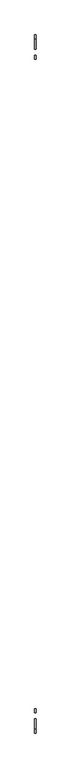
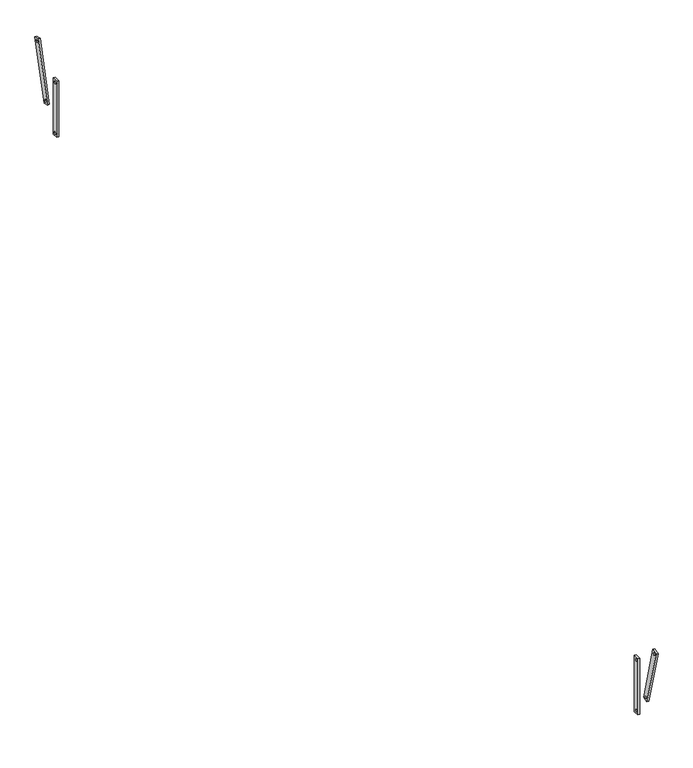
"""IFC4 building model written with IfcOpenShell, lengths in millimetres: proxy geometry, Modelos genéricos 288 : Modelos genéricos 278."""

from ifc_helpers import new_model, si_unit, point, frame, frame_2d, origin, place, context, project, spatial, polyline, circle_curve, trimmed, segment, composite_curve, outline, extrude, source, transform, mapped, element, save


def generic_models_0971f96f(model_context):
    return source(origin(), model_context, "Body", "SweptSolid", [
        extrude(outline(polyline([(5318.6238165, 2800.0), (5318.6238165, 3200.0), (5358.6238165, 3200.0), (5358.6238165, 2800.0), (5318.6238165, 2800.0)]), holes=[composite_curve([segment(trimmed(circle_curve(frame_2d((5338.6238165, 3180.0)), 7.5), [point((5346.1238165, 3180.0))], [point((5331.1238165, 3180.0))], True, "CARTESIAN"), True, "CONTINUOUS"), segment(trimmed(circle_curve(frame_2d((5338.6238165, 3180.0)), 7.5), [point((5331.1238165, 3180.0))], [point((5346.1238165, 3180.0))], True, "CARTESIAN"), True, "CONTINUOUS")], self_intersect=False), composite_curve([segment(trimmed(circle_curve(frame_2d((5338.6238165, 2820.0)), 7.5), [point((5346.1238165, 2820.0))], [point((5331.1238165, 2820.0))], True, "CARTESIAN"), True, "CONTINUOUS"), segment(trimmed(circle_curve(frame_2d((5338.6238165, 2820.0)), 7.5), [point((5331.1238165, 2820.0))], [point((5346.1238165, 2820.0))], True, "CARTESIAN"), True, "CONTINUOUS")], self_intersect=False)]), frame((5633.4472467, 0.0, 0.0), z_axis=(1.0, 0.0, 0.0), x_axis=(0.0, 1.0, 0.0)), (0.0, 0.0, 1.0), 12.7),
        extrude(outline(polyline([(5424.7907615, 2966.5419368), (5533.4947604, 3372.2307838), (5572.1317934, 3361.878022), (5463.4277945, 2956.1891749), (5424.7907615, 2966.5419368)]), holes=[composite_curve([segment(trimmed(circle_curve(frame_2d((5547.636896, 3347.7358864)), 7.5), [point((5554.8813397, 3345.7947435))], [point((5540.3924523, 3349.6770292))], True, "CARTESIAN"), True, "CONTINUOUS"), segment(trimmed(circle_curve(frame_2d((5547.636896, 3347.7358864)), 7.5), [point((5540.3924523, 3349.6770292))], [point((5554.8813397, 3345.7947435))], True, "CARTESIAN"), True, "CONTINUOUS")], self_intersect=False), composite_curve([segment(trimmed(circle_curve(frame_2d((5449.2856589, 2980.6840724)), 7.5), [point((5456.5301026, 2978.7429295))], [point((5442.0412152, 2982.6252152))], True, "CARTESIAN"), True, "CONTINUOUS"), segment(trimmed(circle_curve(frame_2d((5449.2856589, 2980.6840724)), 7.5), [point((5442.0412152, 2982.6252152))], [point((5456.5301026, 2978.7429295))], True, "CARTESIAN"), True, "CONTINUOUS")], self_intersect=False)]), frame((5633.4472467, 0.0, 0.0), z_axis=(1.0, 0.0, 0.0), x_axis=(0.0, 1.0, 0.0)), (0.0, 0.0, 1.0), 12.7),
        extrude(outline(polyline([(-1421.3761835, 2800.0), (-1461.3761835, 2800.0), (-1461.3761835, 3200.0), (-1421.3761835, 3200.0), (-1421.3761835, 2800.0)]), holes=[composite_curve([segment(trimmed(circle_curve(frame_2d((-1441.3761835, 3180.0)), 7.5), [point((-1448.8761835, 3180.0))], [point((-1433.8761835, 3180.0))], True, "CARTESIAN"), True, "CONTINUOUS"), segment(trimmed(circle_curve(frame_2d((-1441.3761835, 3180.0)), 7.5), [point((-1433.8761835, 3180.0))], [point((-1448.8761835, 3180.0))], True, "CARTESIAN"), True, "CONTINUOUS")], self_intersect=False), composite_curve([segment(trimmed(circle_curve(frame_2d((-1441.3761835, 2820.0)), 7.5), [point((-1448.8761835, 2820.0))], [point((-1433.8761835, 2820.0))], True, "CARTESIAN"), True, "CONTINUOUS"), segment(trimmed(circle_curve(frame_2d((-1441.3761835, 2820.0)), 7.5), [point((-1433.8761835, 2820.0))], [point((-1448.8761835, 2820.0))], True, "CARTESIAN"), True, "CONTINUOUS")], self_intersect=False)]), frame((5633.4472467, 0.0, 0.0), z_axis=(1.0, 0.0, 0.0), x_axis=(0.0, 1.0, 0.0)), (0.0, 0.0, 1.0), 12.7),
        extrude(outline(polyline([(-1527.5431285, 2966.5419368), (-1566.1801615, 2956.1891749), (-1674.8841605, 3361.878022), (-1636.2471274, 3372.2307838), (-1527.5431285, 2966.5419368)]), holes=[composite_curve([segment(trimmed(circle_curve(frame_2d((-1650.389263, 3347.7358864)), 7.5), [point((-1657.6337067, 3345.7947435))], [point((-1643.1448193, 3349.6770292))], True, "CARTESIAN"), True, "CONTINUOUS"), segment(trimmed(circle_curve(frame_2d((-1650.389263, 3347.7358864)), 7.5), [point((-1643.1448193, 3349.6770292))], [point((-1657.6337067, 3345.7947435))], True, "CARTESIAN"), True, "CONTINUOUS")], self_intersect=False), composite_curve([segment(trimmed(circle_curve(frame_2d((-1552.0380259, 2980.6840724)), 7.5), [point((-1559.2824696, 2978.7429295))], [point((-1544.7935822, 2982.6252152))], True, "CARTESIAN"), True, "CONTINUOUS"), segment(trimmed(circle_curve(frame_2d((-1552.0380259, 2980.6840724)), 7.5), [point((-1544.7935822, 2982.6252152))], [point((-1559.2824696, 2978.7429295))], True, "CARTESIAN"), True, "CONTINUOUS")], self_intersect=False)]), frame((5633.4472467, 0.0, 0.0), z_axis=(1.0, 0.0, 0.0), x_axis=(0.0, 1.0, 0.0)), (0.0, 0.0, 1.0), 12.7),
    ])


if __name__ == "__main__":
    model = new_model("IFC4")
    model_context = context("Model", 3, world=origin())
    ifc_project = project(units=[si_unit("LENGTHUNIT", "METRE", prefix="MILLI")], contexts=[model_context])
    site = spatial("IfcSite", under=ifc_project)
    building = spatial("IfcBuilding", under=site)
    placement = place(None, origin())
    generic_models_shape = generic_models_0971f96f(model_context)
    element("IfcBuildingElementProxy", 1, Name="Modelos genéricos 288 : Modelos genéricos 278", ObjectType="Modelos genéricos 288 : Modelos genéricos 278", at=placement, inside=building, context=model_context, shape_type="MappedRepresentation", body=[
        mapped(generic_models_shape, transform((0.0, 0.0, 0.0), x_axis=(1.0, 0.0, 0.0), y_axis=(0.0, 1.0, 0.0), z_axis=(0.0, 0.0, 1.0))),
    ])
    save(model, "model.ifc")
